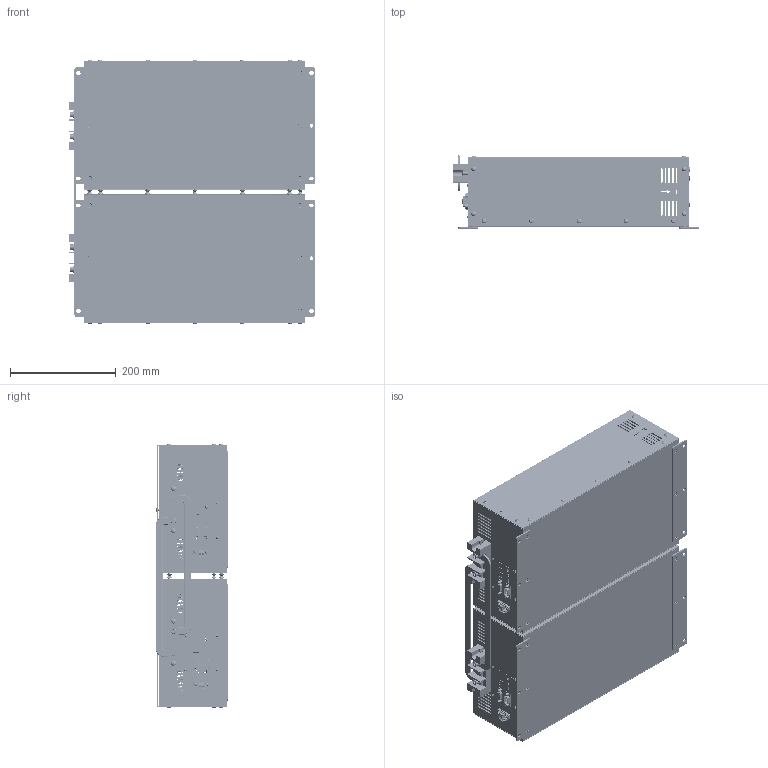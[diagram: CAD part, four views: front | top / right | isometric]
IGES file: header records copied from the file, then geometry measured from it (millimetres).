
Global section: file name: VX3,VX3COM BUSBAR; native system: Autodesk Inventor 2021; preprocessor: unknown; author: eunsol jang; date: 20230824.153634; units: inch
Bounding box: 468 x 138.22 x 501.09 mm (x, y, z)
Volume: 1456119.8 mm3; surface area: 1834316.5 mm2
Topology: 28 solids, 28 shells, 9024 faces, 26884 edges, 18634 vertices
Faces by surface type: bspline 9024
